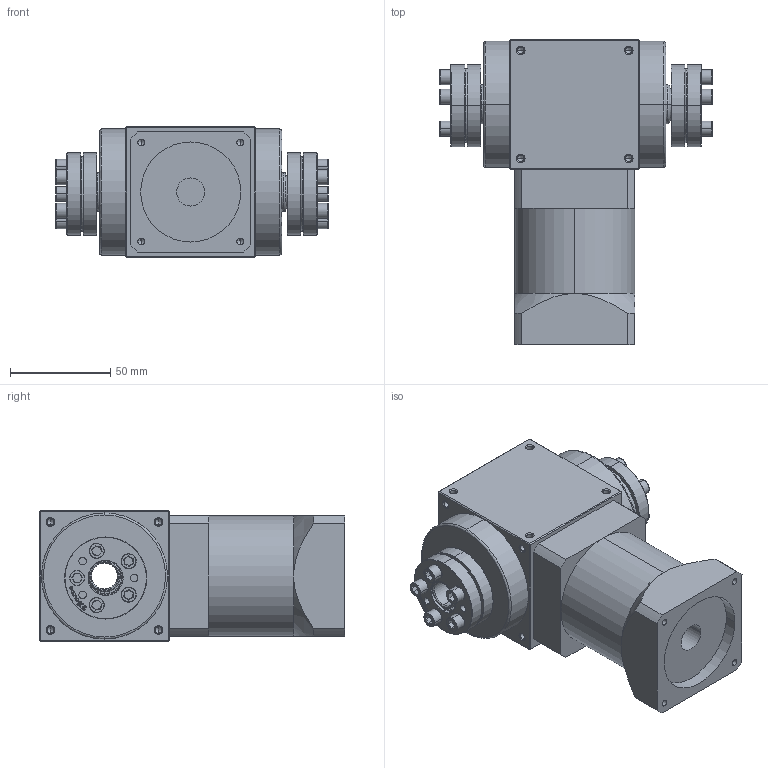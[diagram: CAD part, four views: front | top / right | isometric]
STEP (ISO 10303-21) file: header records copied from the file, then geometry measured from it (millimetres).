
FILE_DESCRIPTION (( 'STEP AP214' ), '1' );
FILE_NAME ('AT065-FC-L1（3~10--14-50-70-M4.STEP', '2020-10-08T01:47:34', ( '微软用户' ), ( '微软中国' ), 'SwSTEP 2.0', 'SolidWorks 2014', '' );
FILE_SCHEMA (( 'AUTOMOTIVE_DESIGN' ));
Length unit declared in the file: millimetre
Products named in the file (6): 83_16x41; AT065-FC-L1-400W; AT065-FC-L1（3~10--14-50-70-M4
Assembly tree (3 placements, depth 2):
  83_16x41
  AT065-FC-L1-400W
  AT065-FC-L1（3~10--14-50-70-M4
    AT065-FC-L1-400W
    83_16x41  x2
  83_16x41
Bounding box: 136 x 152.5 x 65 mm (x, y, z)
Volume: 639749.1 mm3; surface area: 83064.3 mm2
Topology: 19 solids, 19 shells, 961 faces, 2296 edges, 1372 vertices
Faces by surface type: cylinder 410, plane 247, cone 216, bspline 48, torus 40
Entity records: 18353 total; most frequent: CARTESIAN_POINT 4325, DIRECTION 2948, ORIENTED_EDGE 2876, EDGE_CURVE 1438, AXIS2_PLACEMENT_3D 1135, VERTEX_POINT 870, EDGE_LOOP 704, VECTOR 678
